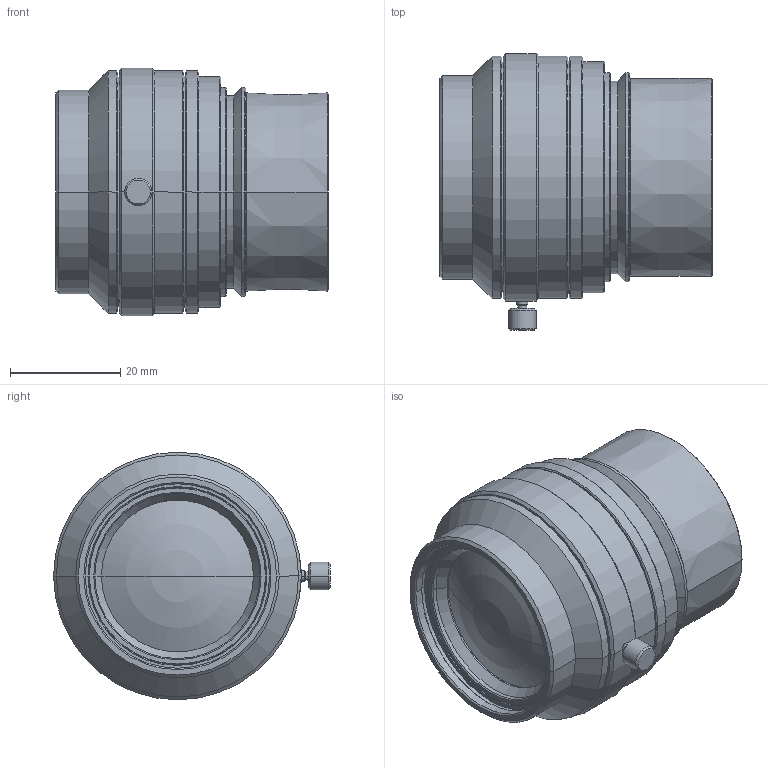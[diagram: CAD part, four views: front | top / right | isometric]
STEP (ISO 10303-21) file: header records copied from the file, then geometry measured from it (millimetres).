
FILE_DESCRIPTION (( 'STEP AP203' ), '1' );
FILE_NAME ('VS-L7540_V.STEP', '2017-08-01T00:33:25', ( 'miura_vst' ), ( '' ), 'SwSTEP 2.0', 'SolidWorks 2017', '' );
FILE_SCHEMA (( 'CONFIG_CONTROL_DESIGN' ));
Length unit declared in the file: millimetre
Products named in the file (1): VS-L7540_V
Bounding box: 49.51 x 50.3 x 45 mm (x, y, z)
Volume: 56541.4 mm3; surface area: 10698.3 mm2
Topology: 1 solids, 1 shells, 124 faces, 251 edges, 140 vertices
Faces by surface type: cone 66, cylinder 38, plane 16, torus 4
Entity records: 3284 total; most frequent: DIRECTION 635, CARTESIAN_POINT 544, ORIENTED_EDGE 494, AXIS2_PLACEMENT_3D 265, EDGE_CURVE 247, VERTEX_POINT 140, CIRCLE 140, EDGE_LOOP 139
